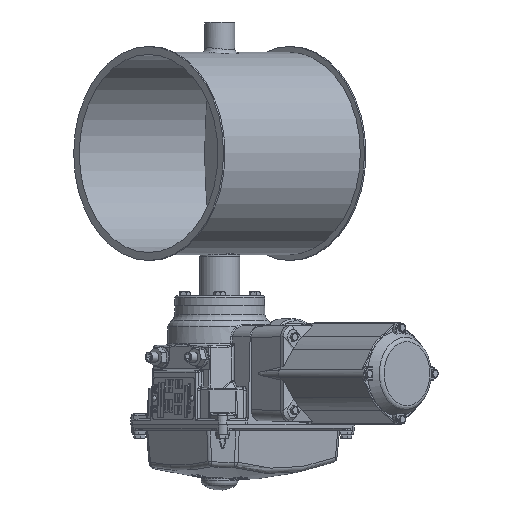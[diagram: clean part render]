
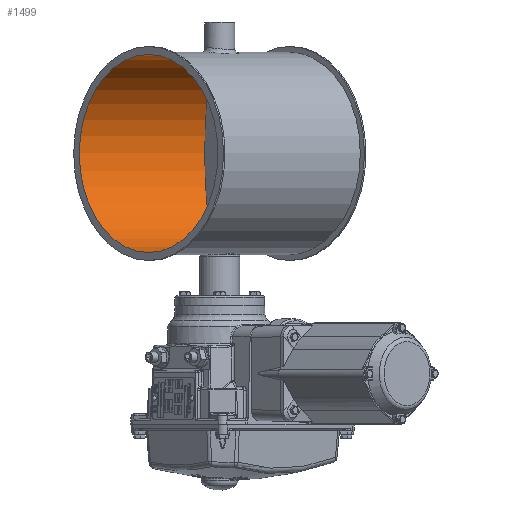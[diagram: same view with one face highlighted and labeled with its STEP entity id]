
A CAD part, front view. The second image highlights one B-rep face of the part: STEP entity #1499.
In plain terms, the highlighted cylindrical face has radius 99.5 mm (diameter 199 mm), a full revolution.
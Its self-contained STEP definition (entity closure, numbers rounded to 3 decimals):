
#1390=CARTESIAN_POINT('',(0.0,0.0,200.0));
#1391=DIRECTION('',(0.0,0.0,-1.0));
#1392=DIRECTION('',(-1.0,0.0,0.0));
#1393=AXIS2_PLACEMENT_3D('',#1390,#1391,#1392);
#1394=CYLINDRICAL_SURFACE('',#1393,99.5);
#1395=CARTESIAN_POINT('',(99.5,0.,0.0));
#1396=VERTEX_POINT('',#1395);
#1397=CARTESIAN_POINT('',(0.0,0.0,0.0));
#1398=DIRECTION('',(0.0,0.0,1.0));
#1399=DIRECTION('',(-1.0,0.0,0.0));
#1400=AXIS2_PLACEMENT_3D('',#1397,#1398,#1399);
#1401=CIRCLE('',#1400,99.5);
#1402=EDGE_CURVE('',#1396,#1396,#1401,.T.);
#1403=ORIENTED_EDGE('',*,*,#1402,.F.);
#1404=EDGE_LOOP('',(#1403));
#1405=FACE_OUTER_BOUND('',#1404,.T.);
#1406=CARTESIAN_POINT('',(-98.996,10.0,100.));
#1407=VERTEX_POINT('',#1406);
#1408=CARTESIAN_POINT('',(-98.996,10.0,100.));
#1409=CARTESIAN_POINT('',(-98.996,10.0,101.257));
#1410=CARTESIAN_POINT('',(-99.023,9.749,102.596));
#1411=CARTESIAN_POINT('',(-99.118,8.728,105.06));
#1412=CARTESIAN_POINT('',(-99.185,7.958,106.184));
#1413=CARTESIAN_POINT('',(-99.312,6.184,107.958));
#1414=CARTESIAN_POINT('',(-99.379,5.06,108.728));
#1415=CARTESIAN_POINT('',(-99.474,2.596,109.749));
#1416=CARTESIAN_POINT('',(-99.5,1.257,110.0));
#1417=CARTESIAN_POINT('',(-99.5,-1.257,110.0));
#1418=CARTESIAN_POINT('',(-99.474,-2.596,109.749));
#1419=CARTESIAN_POINT('',(-99.379,-5.06,108.728));
#1420=CARTESIAN_POINT('',(-99.312,-6.184,107.958));
#1421=CARTESIAN_POINT('',(-99.185,-7.958,106.184));
#1422=CARTESIAN_POINT('',(-99.118,-8.728,105.06));
#1423=CARTESIAN_POINT('',(-99.023,-9.749,102.596));
#1424=CARTESIAN_POINT('',(-98.996,-10.0,101.257));
#1425=CARTESIAN_POINT('',(-98.996,-10.0,98.743));
#1426=CARTESIAN_POINT('',(-99.023,-9.749,97.404));
#1427=CARTESIAN_POINT('',(-99.118,-8.728,94.94));
#1428=CARTESIAN_POINT('',(-99.185,-7.958,93.816));
#1429=CARTESIAN_POINT('',(-99.312,-6.184,92.042));
#1430=CARTESIAN_POINT('',(-99.379,-5.06,91.272));
#1431=CARTESIAN_POINT('',(-99.474,-2.596,90.251));
#1432=CARTESIAN_POINT('',(-99.5,-1.257,90.0));
#1433=CARTESIAN_POINT('',(-99.5,1.257,90.0));
#1434=CARTESIAN_POINT('',(-99.474,2.596,90.251));
#1435=CARTESIAN_POINT('',(-99.379,5.06,91.272));
#1436=CARTESIAN_POINT('',(-99.312,6.184,92.042));
#1437=CARTESIAN_POINT('',(-99.185,7.958,93.816));
#1438=CARTESIAN_POINT('',(-99.118,8.728,94.94));
#1439=CARTESIAN_POINT('',(-99.023,9.749,97.404));
#1440=CARTESIAN_POINT('',(-98.996,10.,98.743));
#1441=CARTESIAN_POINT('',(-98.996,10.,100.));
#1442=B_SPLINE_CURVE_WITH_KNOTS('',3,(#1408,#1409,#1410,#1411,#1412,#1413,#1414,#1415,#1416,#1417,#1418,#1419,#1420,#1421,#1422,#1423,#1424,#1425,#1426,#1427,#1428,#1429,#1430,#1431,#1432,#1433,#1434,#1435,#1436,#1437,#1438,#1439,#1440,#1441),.UNSPECIFIED.,.T.,.U.,(4,2,2,2,2,2,2,2,2,2,2,2,2,2,2,2,4),(0.0,0.377,0.754,1.131,1.508,1.885,2.262,2.639,3.016,3.393,3.77,4.147,4.524,4.9,5.277,5.654,6.031),.UNSPECIFIED.);
#1443=EDGE_CURVE('',#1407,#1407,#1442,.T.);
#1444=ORIENTED_EDGE('',*,*,#1443,.F.);
#1445=EDGE_LOOP('',(#1444));
#1446=FACE_BOUND('',#1445,.T.);
#1447=CARTESIAN_POINT('',(98.996,10.,100.));
#1448=VERTEX_POINT('',#1447);
#1449=CARTESIAN_POINT('',(98.996,10.,100.));
#1450=CARTESIAN_POINT('',(98.996,10.,98.743));
#1451=CARTESIAN_POINT('',(99.023,9.749,97.404));
#1452=CARTESIAN_POINT('',(99.118,8.728,94.94));
#1453=CARTESIAN_POINT('',(99.185,7.958,93.816));
#1454=CARTESIAN_POINT('',(99.312,6.184,92.042));
#1455=CARTESIAN_POINT('',(99.379,5.06,91.272));
#1456=CARTESIAN_POINT('',(99.474,2.596,90.251));
#1457=CARTESIAN_POINT('',(99.5,1.257,90.0));
#1458=CARTESIAN_POINT('',(99.5,-1.257,90.0));
#1459=CARTESIAN_POINT('',(99.474,-2.596,90.251));
#1460=CARTESIAN_POINT('',(99.379,-5.06,91.272));
#1461=CARTESIAN_POINT('',(99.312,-6.184,92.042));
#1462=CARTESIAN_POINT('',(99.185,-7.958,93.816));
#1463=CARTESIAN_POINT('',(99.118,-8.728,94.94));
#1464=CARTESIAN_POINT('',(99.023,-9.749,97.404));
#1465=CARTESIAN_POINT('',(98.996,-10.0,98.743));
#1466=CARTESIAN_POINT('',(98.996,-10.0,101.257));
#1467=CARTESIAN_POINT('',(99.023,-9.749,102.596));
#1468=CARTESIAN_POINT('',(99.118,-8.728,105.06));
#1469=CARTESIAN_POINT('',(99.185,-7.958,106.184));
#1470=CARTESIAN_POINT('',(99.312,-6.184,107.958));
#1471=CARTESIAN_POINT('',(99.379,-5.06,108.728));
#1472=CARTESIAN_POINT('',(99.474,-2.596,109.749));
#1473=CARTESIAN_POINT('',(99.5,-1.257,110.0));
#1474=CARTESIAN_POINT('',(99.5,1.257,110.0));
#1475=CARTESIAN_POINT('',(99.474,2.596,109.749));
#1476=CARTESIAN_POINT('',(99.379,5.06,108.728));
#1477=CARTESIAN_POINT('',(99.312,6.184,107.958));
#1478=CARTESIAN_POINT('',(99.185,7.958,106.184));
#1479=CARTESIAN_POINT('',(99.118,8.728,105.06));
#1480=CARTESIAN_POINT('',(99.023,9.749,102.596));
#1481=CARTESIAN_POINT('',(98.996,10.,101.257));
#1482=CARTESIAN_POINT('',(98.996,10.,100.0));
#1483=B_SPLINE_CURVE_WITH_KNOTS('',3,(#1449,#1450,#1451,#1452,#1453,#1454,#1455,#1456,#1457,#1458,#1459,#1460,#1461,#1462,#1463,#1464,#1465,#1466,#1467,#1468,#1469,#1470,#1471,#1472,#1473,#1474,#1475,#1476,#1477,#1478,#1479,#1480,#1481,#1482),.UNSPECIFIED.,.T.,.U.,(4,2,2,2,2,2,2,2,2,2,2,2,2,2,2,2,4),(0.0,0.377,0.754,1.131,1.508,1.885,2.262,2.639,3.016,3.393,3.77,4.147,4.524,4.9,5.277,5.654,6.031),.UNSPECIFIED.);
#1484=EDGE_CURVE('',#1448,#1448,#1483,.T.);
#1485=ORIENTED_EDGE('',*,*,#1484,.F.);
#1486=EDGE_LOOP('',(#1485));
#1487=FACE_BOUND('',#1486,.T.);
#1488=CARTESIAN_POINT('',(99.5,0.,200.0));
#1489=VERTEX_POINT('',#1488);
#1490=CARTESIAN_POINT('',(0.0,0.0,200.0));
#1491=DIRECTION('',(0.0,0.0,-1.0));
#1492=DIRECTION('',(-1.0,0.0,0.0));
#1493=AXIS2_PLACEMENT_3D('',#1490,#1491,#1492);
#1494=CIRCLE('',#1493,99.5);
#1495=EDGE_CURVE('',#1489,#1489,#1494,.T.);
#1496=ORIENTED_EDGE('',*,*,#1495,.F.);
#1497=EDGE_LOOP('',(#1496));
#1498=FACE_BOUND('',#1497,.T.);
#1499=ADVANCED_FACE('',(#1405,#1446,#1487,#1498),#1394,.F.);
